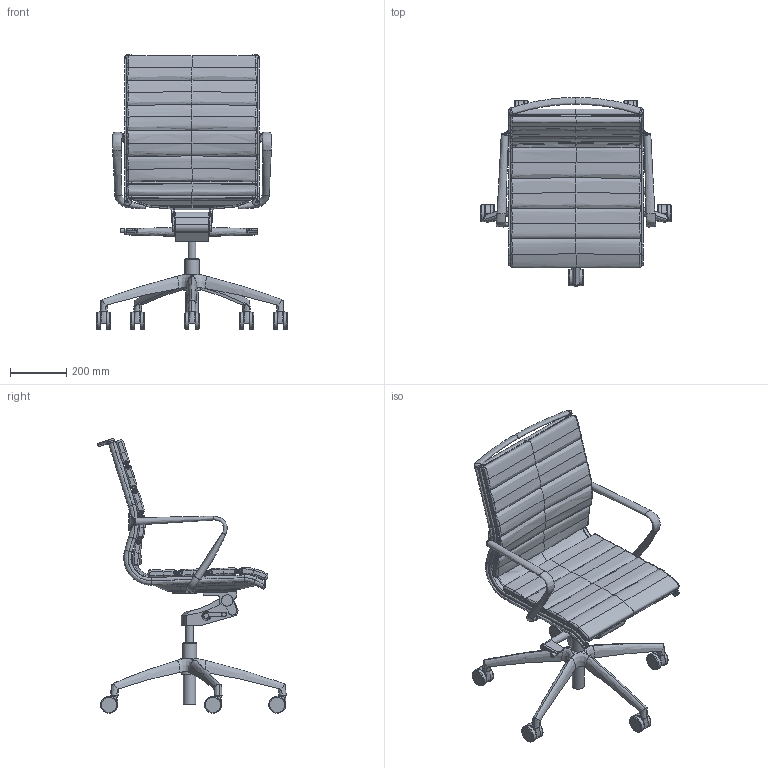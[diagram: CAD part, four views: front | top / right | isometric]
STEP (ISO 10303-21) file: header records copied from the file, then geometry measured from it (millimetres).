
FILE_DESCRIPTION(/* description */ (''),/* implementation_level */ '2;1');
FILE_NAME(/* name */ 'PLBD0D~1',/* time_stamp */ '2018-04-10T15:14:13+02:00',/* author */ (''),/* organization */ (''),/* preprocessor_version */ 'ST-DEVELOPER v16.5',/* originating_system */ '',/* authorisation */ '');
FILE_SCHEMA (('AUTOMOTIVE_DESIGN'));
Length unit declared in the file: millimetre
Products named in the file (1): Document
Bounding box: 677.7 x 669.48 x 974.8 mm (x, y, z)
Volume: 17853642 mm3; surface area: 2881039.7 mm2
Topology: 23 solids, 57 shells, 797 faces, 2022 edges, 1281 vertices
Faces by surface type: bspline 667, plane 130
Entity records: 74064 total; most frequent: CARTESIAN_POINT 61966, ORIENTED_EDGE 3803, EDGE_CURVE 1999, B_SPLINE_CURVE_WITH_KNOTS 1426, VERTEX_POINT 1275, EDGE_LOOP 801, ADVANCED_FACE 797, FACE_OUTER_BOUND 797
